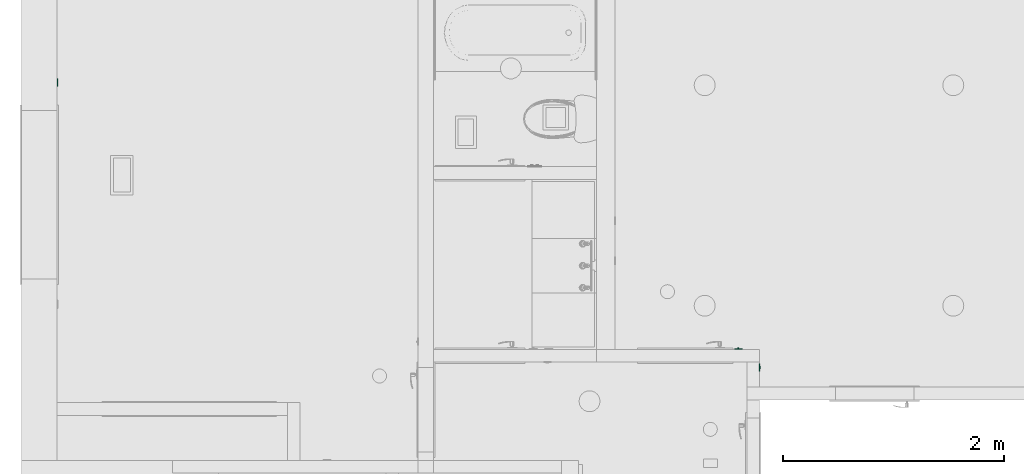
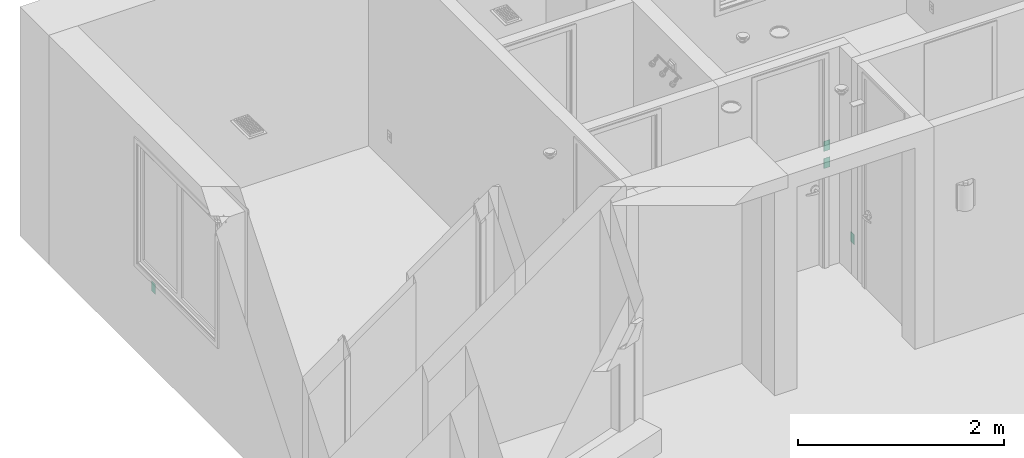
# One storey, part 10 of 48: 4 flow controllers.
"""IFC2X3 building model written with IfcOpenShell, lengths in inches."""

from ifc_helpers import new_model, entity, si_unit, converted_unit, derived_unit, money_unit, direction, frame, origin_with_axes, place, context, subcontext, project, spatial, faceted_brep, source, transform, mapped, type_object, element, save


model = new_model("IFC2X3")

# Units and contexts
model_context = context("Model", 3, precision=0.00039370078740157, world=origin_with_axes(), true_north=direction((0.0, 1.0)))
plan_context = context("Plan", 3, precision=0.00039370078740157, world=origin_with_axes(), true_north=direction((0.0, 1.0)))
body_context = subcontext(model_context, "Body", "Model", "MODEL_VIEW")
ifc_project = project(units=[converted_unit("LENGTHUNIT", "INCH", entity("IfcPositiveLengthMeasure", 0.0254), si_unit("LENGTHUNIT", "METRE"), dimensions=[1, 0, 0, 0, 0, 0, 0]), converted_unit("AREAUNIT", "SQUARE_FOOT", entity("IfcPositiveLengthMeasure", 0.09290304), si_unit("AREAUNIT", "SQUARE_METRE"), dimensions=[2, 0, 0, 0, 0, 0, 0]), si_unit("PLANEANGLEUNIT", "RADIAN"), si_unit("SOLIDANGLEUNIT", "STERADIAN"), money_unit("USD"), converted_unit("TIMEUNIT", "Year", entity("IfcTimeMeasure", 31557600.0), si_unit("TIMEUNIT", "SECOND"), dimensions=[0, 0, 1, 0, 0, 0, 0]), si_unit("MASSUNIT", "GRAM", prefix="KILO"), si_unit("THERMODYNAMICTEMPERATUREUNIT", "DEGREE_CELSIUS"), si_unit("LUMINOUSINTENSITYUNIT", "LUMEN"), si_unit("ENERGYUNIT", "JOULE", prefix="MEGA"), derived_unit("SPECIFICHEATCAPACITYUNIT", [(si_unit("ENERGYUNIT", "JOULE"), 1), (si_unit("MASSUNIT", "GRAM", prefix="KILO"), -1), (si_unit("THERMODYNAMICTEMPERATUREUNIT", "KELVIN"), -1)])], contexts=[model_context, plan_context])

# Site, building, storey
site_placement = place(None, origin_with_axes())
site = spatial("IfcSite", under=ifc_project, at=site_placement, Name="Site", CompositionType="ELEMENT")
building_placement = place(site_placement, origin_with_axes())
building = spatial("IfcBuilding", under=site, at=building_placement, Name="Building", CompositionType="ELEMENT")
storey_placement = place(building_placement, origin_with_axes())
storey = spatial("IfcBuildingStorey", under=building, at=storey_placement, Name="First Floor", CompositionType="ELEMENT", Elevation=0.0)

# Flow controllers
switching_device_type_1 = type_object("IfcSwitchingDeviceType", Name="Outlet 1 US", PredefinedType="NOTDEFINED")
shared_shape_1 = source(origin_with_axes(), body_context, "Body", "Brep", [
    faceted_brep([(0.39370078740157, -0.03444881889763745, -1.18110236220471), (0.5436477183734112, -0.03444881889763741, -0.7086614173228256), (0.5436477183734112, -0.2165354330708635, -0.7086614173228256), (0.39370078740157, -0.2165354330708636, -1.18110236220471), (-0.3937007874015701, -0.03444881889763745, -1.181102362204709), (-0.543647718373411, -0.03444881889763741, -0.7086614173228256), (-0.39370078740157, -0.03444881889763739, -0.2362204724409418), (0.3937007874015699, -0.03444881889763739, -0.2362204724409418), (-0.196850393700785, -0.03444881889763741, -0.7086614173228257), (-0.196850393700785, -0.0344488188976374, -0.4724409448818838), (-0.275590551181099, -0.0344488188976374, -0.4724409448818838), (-0.275590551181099, -0.03444881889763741, -0.7086614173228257), (0.196850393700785, -0.03444881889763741, -0.7086614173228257), (0.275590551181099, -0.03444881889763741, -0.7086614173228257), (0.275590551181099, -0.0344488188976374, -0.4724409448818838), (0.196850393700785, -0.0344488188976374, -0.4724409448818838), (-0.078740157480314, -0.03444881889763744, -1.102362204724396), (0.078740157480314, -0.03444881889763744, -1.102362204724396), (0.078740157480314, -0.03444881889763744, -1.023622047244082), (0.06819097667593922, -0.03444881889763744, -0.9842519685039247), (0.03937007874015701, -0.03444881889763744, -0.9554310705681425), (0.0, -0.03444881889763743, -0.9448818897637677), (-0.03937007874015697, -0.03444881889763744, -0.9554310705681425), (-0.06819097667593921, -0.03444881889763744, -0.9842519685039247), (-0.078740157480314, -0.03444881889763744, -1.023622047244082), (0.3937007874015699, -0.2165354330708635, -0.2362204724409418), (-0.39370078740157, -0.2165354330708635, -0.2362204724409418), (-0.543647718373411, -0.2165354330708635, -0.7086614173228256), (-0.3937007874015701, -0.2165354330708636, -1.181102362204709), (-0.196850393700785, -0.2165354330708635, -0.7086614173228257), (-0.275590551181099, -0.2165354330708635, -0.7086614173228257), (-0.275590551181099, -0.2165354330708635, -0.4724409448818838), (-0.196850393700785, -0.2165354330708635, -0.4724409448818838), (0.196850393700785, -0.2165354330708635, -0.7086614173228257), (0.196850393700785, -0.2165354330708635, -0.4724409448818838), (0.275590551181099, -0.2165354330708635, -0.4724409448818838), (0.275590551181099, -0.2165354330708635, -0.7086614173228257), (-0.078740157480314, -0.2165354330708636, -1.102362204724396), (-0.078740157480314, -0.2165354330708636, -1.023622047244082), (-0.06819097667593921, -0.2165354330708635, -0.9842519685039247), (-0.03937007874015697, -0.2165354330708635, -0.9554310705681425), (0.0, -0.2165354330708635, -0.9448818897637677), (0.03937007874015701, -0.2165354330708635, -0.9554310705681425), (0.06819097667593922, -0.2165354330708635, -0.9842519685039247), (0.078740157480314, -0.2165354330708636, -1.023622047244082), (0.078740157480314, -0.2165354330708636, -1.102362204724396)], [[[0, 1, 2, 3]], [[0, 4, 5, 6, 7, 1], [8, 9, 10, 11], [12, 13, 14, 15], [16, 17, 18, 19, 20, 21, 22, 23, 24]], [[1, 7, 25, 2]], [[3, 2, 25, 26, 27, 28], [29, 30, 31, 32], [33, 34, 35, 36], [37, 38, 39, 40, 41, 42, 43, 44, 45]], [[4, 0, 3, 28]], [[5, 4, 28, 27]], [[6, 5, 27, 26]], [[7, 6, 26, 25]], [[9, 8, 29, 32]], [[10, 9, 32, 31]], [[11, 10, 31, 30]], [[8, 11, 30, 29]], [[13, 12, 33, 36]], [[14, 13, 36, 35]], [[15, 14, 35, 34]], [[12, 15, 34, 33]], [[17, 16, 37, 45]], [[18, 17, 45, 44]], [[19, 18, 44, 43]], [[20, 19, 43, 42]], [[21, 20, 42, 41]], [[22, 21, 41, 40]], [[23, 22, 40, 39]], [[24, 23, 39, 38]], [[16, 24, 38, 37]]]),
    faceted_brep([(0.39370078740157, -0.03444881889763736, 0.2362204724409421), (0.5436477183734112, -0.03444881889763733, 0.7086614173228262), (0.5436477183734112, -0.2165354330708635, 0.7086614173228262), (0.39370078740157, -0.2165354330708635, 0.2362204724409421), (-0.3937007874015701, -0.03444881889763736, 0.2362204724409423), (-0.543647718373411, -0.03444881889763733, 0.7086614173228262), (-0.39370078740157, -0.0344488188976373, 1.18110236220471), (0.3937007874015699, -0.0344488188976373, 1.18110236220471), (-0.196850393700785, -0.03444881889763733, 0.7086614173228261), (-0.196850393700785, -0.03444881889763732, 0.944881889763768), (-0.275590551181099, -0.03444881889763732, 0.944881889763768), (-0.275590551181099, -0.03444881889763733, 0.7086614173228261), (0.196850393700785, -0.03444881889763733, 0.7086614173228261), (0.275590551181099, -0.03444881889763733, 0.7086614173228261), (0.275590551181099, -0.03444881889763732, 0.944881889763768), (0.196850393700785, -0.03444881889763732, 0.944881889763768), (-0.078740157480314, -0.03444881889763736, 0.3149606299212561), (0.078740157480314, -0.03444881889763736, 0.3149606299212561), (0.078740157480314, -0.03444881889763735, 0.3937007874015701), (0.06819097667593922, -0.03444881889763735, 0.4330708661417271), (0.03937007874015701, -0.03444881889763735, 0.4618917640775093), (0.0, -0.03444881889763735, 0.472440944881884), (-0.03937007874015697, -0.03444881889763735, 0.4618917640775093), (-0.06819097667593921, -0.03444881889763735, 0.4330708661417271), (-0.078740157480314, -0.03444881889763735, 0.3937007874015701), (0.3937007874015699, -0.2165354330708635, 1.18110236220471), (-0.39370078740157, -0.2165354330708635, 1.18110236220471), (-0.543647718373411, -0.2165354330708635, 0.7086614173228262), (-0.3937007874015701, -0.2165354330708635, 0.2362204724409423), (-0.196850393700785, -0.2165354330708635, 0.7086614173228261), (-0.275590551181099, -0.2165354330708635, 0.7086614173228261), (-0.275590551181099, -0.2165354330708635, 0.944881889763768), (-0.196850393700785, -0.2165354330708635, 0.944881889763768), (0.196850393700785, -0.2165354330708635, 0.7086614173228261), (0.196850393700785, -0.2165354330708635, 0.944881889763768), (0.275590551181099, -0.2165354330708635, 0.944881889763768), (0.275590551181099, -0.2165354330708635, 0.7086614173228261), (-0.078740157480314, -0.2165354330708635, 0.3149606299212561), (-0.078740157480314, -0.2165354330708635, 0.3937007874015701), (-0.06819097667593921, -0.2165354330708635, 0.4330708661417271), (-0.03937007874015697, -0.2165354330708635, 0.4618917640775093), (0.0, -0.2165354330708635, 0.472440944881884), (0.03937007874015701, -0.2165354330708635, 0.4618917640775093), (0.06819097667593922, -0.2165354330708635, 0.4330708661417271), (0.078740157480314, -0.2165354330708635, 0.3937007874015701), (0.078740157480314, -0.2165354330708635, 0.3149606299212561)], [[[0, 1, 2, 3]], [[0, 4, 5, 6, 7, 1], [8, 9, 10, 11], [12, 13, 14, 15], [16, 17, 18, 19, 20, 21, 22, 23, 24]], [[1, 7, 25, 2]], [[3, 2, 25, 26, 27, 28], [29, 30, 31, 32], [33, 34, 35, 36], [37, 38, 39, 40, 41, 42, 43, 44, 45]], [[4, 0, 3, 28]], [[5, 4, 28, 27]], [[6, 5, 27, 26]], [[7, 6, 26, 25]], [[9, 8, 29, 32]], [[10, 9, 32, 31]], [[11, 10, 31, 30]], [[8, 11, 30, 29]], [[13, 12, 33, 36]], [[14, 13, 36, 35]], [[15, 14, 35, 34]], [[12, 15, 34, 33]], [[17, 16, 37, 45]], [[18, 17, 45, 44]], [[19, 18, 44, 43]], [[20, 19, 43, 42]], [[21, 20, 42, 41]], [[22, 21, 41, 40]], [[23, 22, 40, 39]], [[24, 23, 39, 38]], [[16, 24, 38, 37]]]),
    faceted_brep([(-1.343503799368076, -0.1377952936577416, -2.327755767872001), (1.343503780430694, -0.1377952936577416, -2.327755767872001), (1.343503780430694, -0.1377952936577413, 2.327755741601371), (-1.343503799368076, -0.1377952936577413, 2.327755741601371), (0.39370078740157, -0.1377952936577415, -1.18110236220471), (-0.3937007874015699, -0.1377952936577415, -1.181102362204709), (-0.5436477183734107, -0.1377952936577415, -0.7086614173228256), (-0.39370078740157, -0.1377952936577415, -0.2362204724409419), (0.3937007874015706, -0.1377952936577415, -0.2362204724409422), (0.5436477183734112, -0.1377952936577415, -0.7086614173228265), (-0.39370078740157, -0.1377952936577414, 1.18110236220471), (0.3937007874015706, -0.1377952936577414, 1.18110236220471), (0.5436477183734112, -0.1377952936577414, 0.7086614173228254), (0.39370078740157, -0.1377952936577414, 0.236220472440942), (-0.3937007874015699, -0.1377952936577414, 0.2362204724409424), (-0.5436477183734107, -0.1377952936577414, 0.7086614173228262), (-1.352419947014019, -0.1366214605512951, -2.336671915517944), (1.352419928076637, -0.1366214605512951, -2.336671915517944), (1.352419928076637, -0.1366214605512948, 2.336671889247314), (-1.352419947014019, -0.1366214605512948, 2.336671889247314), (0.39370078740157, -0.03444881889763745, -1.18110236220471), (-0.3937007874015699, -0.03444881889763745, -1.181102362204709), (-0.5436477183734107, -0.03444881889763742, -0.7086614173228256), (-0.39370078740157, -0.03444881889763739, -0.2362204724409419), (0.3937007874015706, -0.03444881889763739, -0.2362204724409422), (0.5436477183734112, -0.03444881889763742, -0.7086614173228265), (-0.39370078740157, -0.0344488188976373, 1.18110236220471), (0.3937007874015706, -0.0344488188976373, 1.18110236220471), (0.5436477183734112, -0.03444881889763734, 0.7086614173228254), (0.39370078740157, -0.03444881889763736, 0.236220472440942), (-0.3937007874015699, -0.03444881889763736, 0.2362204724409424), (-0.5436477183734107, -0.03444881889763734, 0.7086614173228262), (-1.36786294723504, -0.1277054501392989, -2.352114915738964), (1.367862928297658, -0.1277054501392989, -2.352114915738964), (1.367862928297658, -0.1277054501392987, 2.352114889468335), (-1.36786294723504, -0.1277054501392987, 2.352114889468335), (-1.376778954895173, -0.1122624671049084, -2.361030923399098), (1.376778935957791, -0.1122624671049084, -2.361030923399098), (1.376778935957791, -0.1122624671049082, 2.361030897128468), (-1.376778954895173, -0.1122624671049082, 2.361030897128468), (-1.377952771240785, -0.1033464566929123, -2.362204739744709), (1.377952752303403, -0.1033464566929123, -2.362204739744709), (1.377952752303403, -0.103346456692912, 2.36220471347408), (-1.377952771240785, -0.103346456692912, 2.36220471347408), (-1.377952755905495, 0.0, -2.36220472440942), (1.377952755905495, 0.0, -2.36220472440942), (1.377952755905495, 0.0, 2.36220472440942), (-1.377952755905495, 0.0, 2.36220472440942)], [[[0, 1, 2, 3], [4, 5, 6, 7, 8, 9], [10, 11, 12, 13, 14, 15]], [[1, 0, 16, 17]], [[2, 1, 17, 18]], [[3, 2, 18, 19]], [[0, 3, 19, 16]], [[4, 20, 21, 5]], [[5, 21, 22, 6]], [[6, 22, 23, 7]], [[7, 23, 24, 8]], [[8, 24, 25, 9]], [[9, 25, 20, 4]], [[11, 10, 26, 27]], [[12, 11, 27, 28]], [[13, 12, 28, 29]], [[14, 13, 29, 30]], [[15, 14, 30, 31]], [[10, 15, 31, 26]], [[17, 16, 32, 33]], [[18, 17, 33, 34]], [[19, 18, 34, 35]], [[16, 19, 35, 32]], [[22, 21, 20, 25, 24, 23]], [[28, 27, 26, 31, 30, 29]], [[33, 32, 36, 37]], [[34, 33, 37, 38]], [[35, 34, 38, 39]], [[32, 35, 39, 36]], [[37, 36, 40, 41]], [[38, 37, 41, 42]], [[39, 38, 42, 43]], [[36, 39, 43, 40]], [[41, 40, 44, 45]], [[42, 41, 45, 46]], [[43, 42, 46, 47]], [[40, 43, 47, 44]], [[46, 45, 44, 47]]]),
])
flow_controller_1_placement = place(storey_placement, frame((-249.4999999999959, 521.4999999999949, 13.99803149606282), z_axis=(0.0, 0.0, 1.0), x_axis=(0.0, 1.0, 0.0)))
element("IfcFlowController", 1, at=flow_controller_1_placement, inside=storey, type_object=switching_device_type_1, Name="FU - 029", context=body_context, shape_type="MappedRepresentation", body=[
    mapped(shared_shape_1, transform((0.0, 0.0, 0.0))),
])
switching_device_type_2 = type_object("IfcSwitchingDeviceType", Name="Switch US", PredefinedType="NOTDEFINED")
shared_shape_2 = source(origin_with_axes(), body_context, "Body", "Brep", [
    faceted_brep([(0.196850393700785, 0.0, -0.5905511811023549), (-0.196850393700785, 0.0, -0.5905511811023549), (-0.196850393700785, 0.0, 0.5905511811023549), (0.196850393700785, 0.0, 0.5905511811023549), (0.196850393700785, -0.1033464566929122, -0.5905511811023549), (-0.196850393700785, -0.1033464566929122, -0.5905511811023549), (-0.196850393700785, -0.1033464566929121, 0.157480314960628), (-0.196850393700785, -0.4970472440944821, 0.1574803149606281), (-0.196850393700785, -0.4970472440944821, 0.472440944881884), (-0.196850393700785, -0.1033464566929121, 0.472440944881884), (-0.196850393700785, -0.1033464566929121, 0.5905511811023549), (0.196850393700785, -0.103346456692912, 0.5905511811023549), (0.196850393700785, -0.1033464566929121, 0.472440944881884), (0.196850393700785, -0.4970472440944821, 0.472440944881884), (0.196850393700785, -0.4970472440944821, 0.1574803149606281), (0.196850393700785, -0.1033464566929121, 0.157480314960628)], [[[0, 1, 2, 3]], [[4, 5, 1, 0]], [[1, 5, 6, 7, 8, 9, 10, 2]], [[3, 2, 10, 11]], [[0, 3, 11, 12, 13, 14, 15, 4]], [[15, 6, 5, 4]], [[14, 7, 6, 15]], [[13, 8, 7, 14]], [[12, 9, 8, 13]], [[11, 10, 9, 12]]]),
    faceted_brep([(0.275590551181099, 0.0, -0.669291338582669), (0.275590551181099, -0.1771653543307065, -0.669291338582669), (-0.275590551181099, -0.1771653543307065, -0.669291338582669), (-0.275590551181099, 0.0, -0.669291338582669), (0.275590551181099, 0.0, 0.669291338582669), (0.275590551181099, -0.1771653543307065, 0.669291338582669), (-0.275590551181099, -0.1771653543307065, 0.669291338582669), (0.196850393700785, -0.1771653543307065, -0.5905511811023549), (-0.196850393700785, -0.1771653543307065, -0.5905511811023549), (-0.196850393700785, -0.1771653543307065, 0.5905511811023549), (0.196850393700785, -0.1771653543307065, 0.5905511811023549), (-0.275590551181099, 0.0, 0.669291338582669), (0.196850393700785, 0.0, -0.5905511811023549), (0.196850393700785, 0.0, 0.5905511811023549), (-0.196850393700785, 0.0, 0.5905511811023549), (-0.196850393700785, 0.0, -0.5905511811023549)], [[[0, 1, 2, 3]], [[4, 5, 1, 0]], [[1, 5, 6, 2], [7, 8, 9, 10]], [[3, 2, 6, 11]], [[0, 3, 11, 4], [12, 13, 14, 15]], [[11, 6, 5, 4]], [[15, 8, 7, 12]], [[14, 9, 8, 15]], [[13, 10, 9, 14]], [[12, 7, 10, 13]]]),
    faceted_brep([(1.343503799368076, -0.1377952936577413, 2.32775574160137), (-1.343503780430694, -0.1377952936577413, 2.32775574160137), (-1.343503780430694, -0.1377952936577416, -2.327755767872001), (1.343503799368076, -0.1377952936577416, -2.327755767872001), (0.275590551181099, -0.1377952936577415, -0.669291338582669), (-0.275590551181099, -0.1377952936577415, -0.669291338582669), (-0.275590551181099, -0.1377952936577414, 0.669291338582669), (0.275590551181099, -0.1377952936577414, 0.669291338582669), (1.352419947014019, -0.1366214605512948, 2.336671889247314), (-1.352419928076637, -0.1366214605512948, 2.336671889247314), (-1.352419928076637, -0.1366214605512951, -2.336671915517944), (1.352419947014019, -0.1366214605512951, -2.336671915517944), (-0.275590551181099, 0.0, -0.669291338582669), (0.275590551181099, 0.0, -0.669291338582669), (-0.275590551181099, 0.0, 0.669291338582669), (0.275590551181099, 0.0, 0.669291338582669), (1.36786294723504, -0.1277054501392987, 2.352114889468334), (-1.367862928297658, -0.1277054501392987, 2.352114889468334), (-1.367862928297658, -0.1277054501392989, -2.352114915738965), (1.36786294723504, -0.1277054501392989, -2.352114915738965), (1.377952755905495, 0.0, 2.36220472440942), (1.377952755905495, 0.0, -2.36220472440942), (-1.377952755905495, 0.0, -2.36220472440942), (-1.377952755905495, 0.0, 2.36220472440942), (1.376778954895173, -0.1122624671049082, 2.361030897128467), (-1.376778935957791, -0.1122624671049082, 2.361030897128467), (-1.376778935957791, -0.1122624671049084, -2.361030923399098), (1.376778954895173, -0.1122624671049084, -2.361030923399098), (1.377952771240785, -0.103346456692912, 2.362204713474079), (1.377952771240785, -0.1033464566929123, -2.36220473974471), (-1.377952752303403, -0.1033464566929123, -2.36220473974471), (-1.377952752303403, -0.103346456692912, 2.362204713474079)], [[[0, 1, 2, 3], [4, 5, 6, 7]], [[8, 9, 1, 0]], [[9, 10, 2, 1]], [[10, 11, 3, 2]], [[11, 8, 0, 3]], [[12, 5, 4, 13]], [[14, 6, 5, 12]], [[15, 7, 6, 14]], [[13, 4, 7, 15]], [[16, 17, 9, 8]], [[17, 18, 10, 9]], [[18, 19, 11, 10]], [[19, 16, 8, 11]], [[20, 21, 22, 23], [13, 15, 14, 12]], [[24, 25, 17, 16]], [[25, 26, 18, 17]], [[26, 27, 19, 18]], [[27, 24, 16, 19]], [[21, 20, 28, 29]], [[22, 21, 29, 30]], [[23, 22, 30, 31]], [[20, 23, 31, 28]], [[28, 31, 25, 24]], [[31, 30, 26, 25]], [[30, 29, 27, 26]], [[29, 28, 24, 27]]]),
])
flow_controller_2_placement = place(storey_placement, frame((-7.004081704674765, 426.4999999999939, 44.99999999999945), z_axis=(0.0, 0.0, 1.0), x_axis=(-1.0, 0.0, 0.0)))
element("IfcFlowController", 2, at=flow_controller_2_placement, inside=storey, type_object=switching_device_type_2, Name="OBJ-09", context=body_context, shape_type="MappedRepresentation", body=[
    mapped(shared_shape_2, transform((0.0, 0.0, 0.0))),
])
shared_shape_3 = source(origin_with_axes(), body_context, "Body", "Brep", [
    faceted_brep([(0.39370078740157, -0.0344488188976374, -0.472440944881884), (0.3937007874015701, -0.03444881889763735, 0.472440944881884), (0.3937007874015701, -0.2165354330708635, 0.472440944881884), (0.39370078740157, -0.2165354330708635, -0.472440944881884), (-0.3937007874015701, -0.0344488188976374, -0.4724409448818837), (-0.39370078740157, -0.03444881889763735, 0.472440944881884), (-0.39370078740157, -0.2165354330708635, 0.472440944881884), (-0.3937007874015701, -0.2165354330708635, -0.4724409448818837)], [[[0, 1, 2, 3]], [[0, 4, 5, 1]], [[1, 5, 6, 2]], [[3, 2, 6, 7]], [[4, 0, 3, 7]], [[5, 4, 7, 6]]]),
    faceted_brep([(1.377952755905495, -0.1377952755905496, -2.36220472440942), (1.377952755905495, -0.1377952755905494, 2.36220472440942), (-1.377952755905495, -0.1377952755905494, 2.36220472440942), (-1.377952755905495, -0.1377952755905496, -2.36220472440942), (-0.3937007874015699, -0.1377952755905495, -0.4724409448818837), (-0.39370078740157, -0.1377952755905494, 0.4724409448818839), (0.3937007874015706, -0.1377952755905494, 0.4724409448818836), (0.39370078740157, -0.1377952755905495, -0.472440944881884), (1.377952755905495, 0.0, 2.36220472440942), (1.377952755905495, 0.0, -2.36220472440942), (-1.377952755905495, 0.0, 2.36220472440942), (-1.377952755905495, 0.0, -2.36220472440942), (-0.3937007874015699, -0.0344488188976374, -0.4724409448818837), (-0.39370078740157, -0.03444881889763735, 0.4724409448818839), (0.3937007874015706, -0.03444881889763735, 0.4724409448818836), (0.39370078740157, -0.0344488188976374, -0.472440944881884)], [[[0, 1, 2, 3], [4, 5, 6, 7]], [[8, 1, 0, 9]], [[10, 2, 1, 8]], [[11, 3, 2, 10]], [[9, 0, 3, 11]], [[5, 4, 12, 13]], [[6, 5, 13, 14]], [[7, 6, 14, 15]], [[4, 7, 15, 12]], [[10, 8, 9, 11]], [[14, 13, 12, 15]]]),
])
for number, where, z_axis, x_axis, name in (
    (3, (0.5000004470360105, 419.999999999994, 10.99999999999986), (0.0, 0.0, 1.0), (0.0, 1.0, 0.0), "OBJ-05"),
    (4, (-7.004081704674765, 426.4999999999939, 52.99999999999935), (0.0, 0.0, 1.0), (-1.0, 0.0, 0.0), "OBJ-05"),
):
    element("IfcFlowController", number, at=place(storey_placement, frame(where, z_axis=z_axis, x_axis=x_axis)), inside=storey, type_object=switching_device_type_1, Name=name, context=body_context, shape_type="MappedRepresentation", body=[
        mapped(shared_shape_3, transform((0.0, 0.0, 0.0))),
    ])

save(model, "model.ifc")
